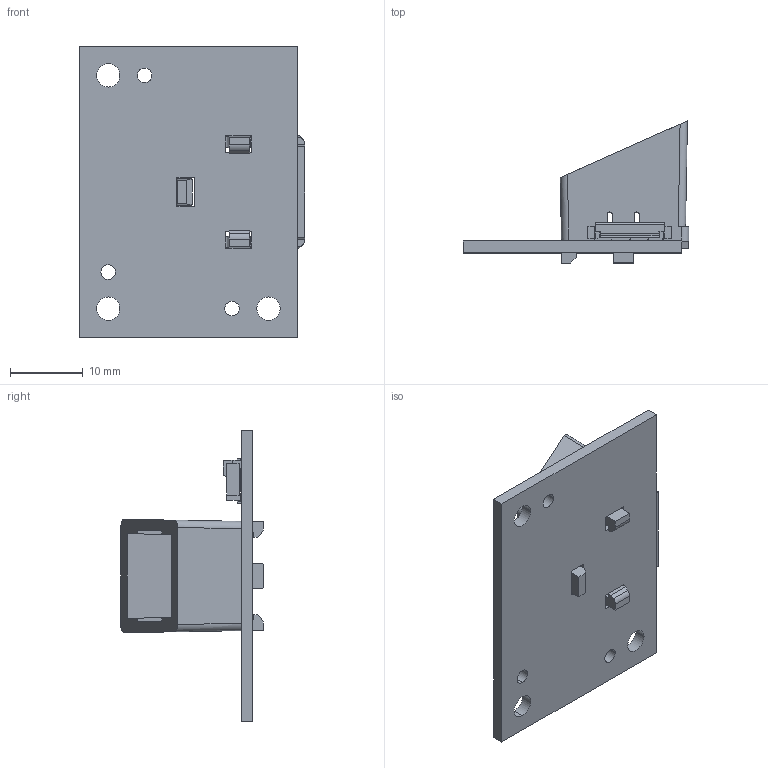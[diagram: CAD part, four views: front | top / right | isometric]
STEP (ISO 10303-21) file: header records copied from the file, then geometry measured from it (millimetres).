
FILE_DESCRIPTION((''),'2;1');
FILE_NAME('SIDE_LED_PCB_ASSY_ASM','2020-12-04T',('g6007893'),(''),'PRO/ENGINEER BY PARAMETRIC TECHNOLOGY CORPORATION, 2013320','PRO/ENGINEER BY PARAMETRIC TECHNOLOGY CORPORATION, 2013320','');
FILE_SCHEMA(('AUTOMOTIVE_DESIGN { 1 0 10303 214 1 1 1 1 }'));
Length unit declared in the file: millimetre
Products named in the file (6): SIDE_LED_PCB; LED_EVERLIGHT_R6GHY5C_1_1_1; PRT0006; FH41-15S-0_5SH-_ASM; LIGHT_PIPE_SIDE_LED_16_3_8_1_1; SIDE_LED_PCB_ASSY_ASM
Assembly tree (6 placements, depth 3):
  SIDE_LED_PCB_ASSY_ASM
    SIDE_LED_PCB
    LED_EVERLIGHT_R6GHY5C_1_1_1  x2
    FH41-15S-0_5SH-_ASM
      PRT0006
    LIGHT_PIPE_SIDE_LED_16_3_8_1_1
Bounding box: 31 x 19.51 x 40 mm (x, y, z)
Volume: 3288.7 mm3; surface area: 4796 mm2
Topology: 5 solids, 5 shells, 535 faces, 1595 edges, 1068 vertices
Faces by surface type: plane 406, cylinder 126, extrusion 3
Entity records: 18052 total; most frequent: CARTESIAN_POINT 3347, ORIENTED_EDGE 3066, DIRECTION 2780, EDGE_CURVE 1533, VECTOR 1282, LINE 1279, VERTEX_POINT 1024, AXIS2_PLACEMENT_3D 749
